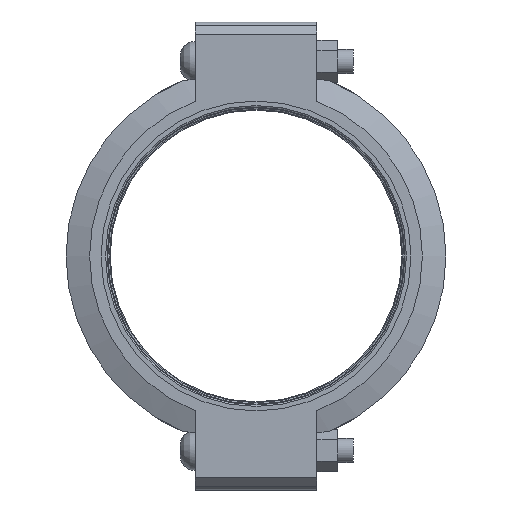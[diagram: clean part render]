
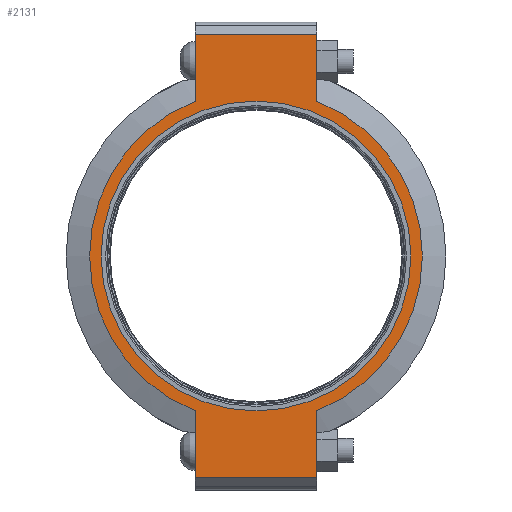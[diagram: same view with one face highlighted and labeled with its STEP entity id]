
A CAD part, left-side view. The second image highlights one B-rep face of the part: STEP entity #2131.
In plain terms, the highlighted planar face has unit normal (-1, 0, 0) as drawn and (0, 0, 1) by its records, which use the part's own axes.
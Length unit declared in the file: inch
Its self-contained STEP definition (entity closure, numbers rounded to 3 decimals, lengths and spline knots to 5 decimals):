
#184=LINE('',#3773,#279);
#195=LINE('',#3824,#290);
#201=LINE('',#3850,#296);
#203=LINE('',#3853,#298);
#204=LINE('',#3858,#299);
#205=LINE('',#3859,#300);
#279=VECTOR('',#3090,0.3937);
#290=VECTOR('',#3121,0.3937);
#296=VECTOR('',#3139,0.3937);
#298=VECTOR('',#3143,0.3937);
#299=VECTOR('',#3148,0.3937);
#300=VECTOR('',#3149,0.3937);
#367=FACE_BOUND('',#640,.T.);
#412=PLANE('',#2503);
#507=FACE_OUTER_BOUND('',#639,.T.);
#639=EDGE_LOOP('',(#1812,#1813,#1814,#1815,#1816,#1817,#1818,#1819));
#640=EDGE_LOOP('',(#1820));
#801=CIRCLE('',#2452,6.375);
#825=CIRCLE('',#2504,6.84375);
#826=CIRCLE('',#2505,6.84375);
#960=VERTEX_POINT('',#3599);
#1001=VERTEX_POINT('',#3770);
#1002=VERTEX_POINT('',#3772);
#1019=VERTEX_POINT('',#3819);
#1020=VERTEX_POINT('',#3823);
#1027=VERTEX_POINT('',#3845);
#1028=VERTEX_POINT('',#3849);
#1029=VERTEX_POINT('',#3855);
#1030=VERTEX_POINT('',#3857);
#1209=EDGE_CURVE('',#960,#960,#801,.T.);
#1266=EDGE_CURVE('',#1002,#1001,#184,.T.);
#1287=EDGE_CURVE('',#1020,#1019,#195,.T.);
#1298=EDGE_CURVE('',#1028,#1027,#201,.T.);
#1300=EDGE_CURVE('',#1028,#1001,#203,.T.);
#1301=EDGE_CURVE('',#1027,#1029,#825,.T.);
#1302=EDGE_CURVE('',#1029,#1030,#204,.T.);
#1303=EDGE_CURVE('',#1020,#1030,#205,.T.);
#1304=EDGE_CURVE('',#1019,#1002,#826,.T.);
#1812=ORIENTED_EDGE('',*,*,#1300,.F.);
#1813=ORIENTED_EDGE('',*,*,#1298,.T.);
#1814=ORIENTED_EDGE('',*,*,#1301,.T.);
#1815=ORIENTED_EDGE('',*,*,#1302,.T.);
#1816=ORIENTED_EDGE('',*,*,#1303,.F.);
#1817=ORIENTED_EDGE('',*,*,#1287,.T.);
#1818=ORIENTED_EDGE('',*,*,#1304,.T.);
#1819=ORIENTED_EDGE('',*,*,#1266,.T.);
#1820=ORIENTED_EDGE('',*,*,#1209,.T.);
#2131=ADVANCED_FACE('',(#507,#367),#412,.T.);
#2452=AXIS2_PLACEMENT_3D('',#3601,#2980,#2981);
#2503=AXIS2_PLACEMENT_3D('',#3854,#3144,#3145);
#2504=AXIS2_PLACEMENT_3D('',#3856,#3146,#3147);
#2505=AXIS2_PLACEMENT_3D('',#3860,#3150,#3151);
#2980=DIRECTION('center_axis',(0.,0.,-1.));
#2981=DIRECTION('ref_axis',(1.,0.,0.));
#3090=DIRECTION('',(1.,0.,0.));
#3121=DIRECTION('',(1.,0.,0.));
#3139=DIRECTION('',(-1.,0.,0.));
#3143=DIRECTION('',(0.,-1.,0.));
#3144=DIRECTION('center_axis',(0.,0.,1.));
#3145=DIRECTION('ref_axis',(-1.,0.,0.));
#3146=DIRECTION('center_axis',(0.,0.,1.));
#3147=DIRECTION('ref_axis',(1.,0.,0.));
#3148=DIRECTION('',(-1.,0.,0.));
#3149=DIRECTION('',(0.,1.,0.));
#3150=DIRECTION('center_axis',(0.,0.,1.));
#3151=DIRECTION('ref_axis',(1.,0.,0.));
#3599=CARTESIAN_POINT('',(-6.375,0.,1.315));
#3601=CARTESIAN_POINT('Origin',(0.,0.,1.315));
#3770=CARTESIAN_POINT('',(9.125,-2.5,1.315));
#3772=CARTESIAN_POINT('',(6.37079,-2.5,1.315));
#3773=CARTESIAN_POINT('',(-9.625,-2.5,1.315));
#3819=CARTESIAN_POINT('',(-6.37079,-2.5,1.315));
#3823=CARTESIAN_POINT('',(-9.125,-2.5,1.315));
#3824=CARTESIAN_POINT('',(-9.625,-2.5,1.315));
#3845=CARTESIAN_POINT('',(6.37079,2.5,1.315));
#3849=CARTESIAN_POINT('',(9.125,2.5,1.315));
#3850=CARTESIAN_POINT('',(9.625,2.5,1.315));
#3853=CARTESIAN_POINT('',(9.125,-1.25,1.315));
#3854=CARTESIAN_POINT('Origin',(0.,0.,
1.315));
#3855=CARTESIAN_POINT('',(-6.37079,2.5,1.315));
#3856=CARTESIAN_POINT('Origin',(0.,0.,1.315));
#3857=CARTESIAN_POINT('',(-9.125,2.5,1.315));
#3858=CARTESIAN_POINT('',(9.625,2.5,1.315));
#3859=CARTESIAN_POINT('',(-9.125,1.25,1.315));
#3860=CARTESIAN_POINT('Origin',(0.,0.,1.315));
